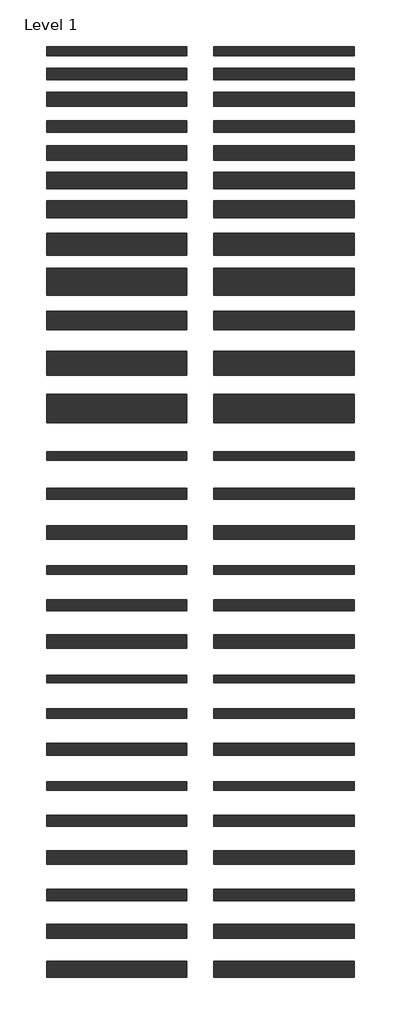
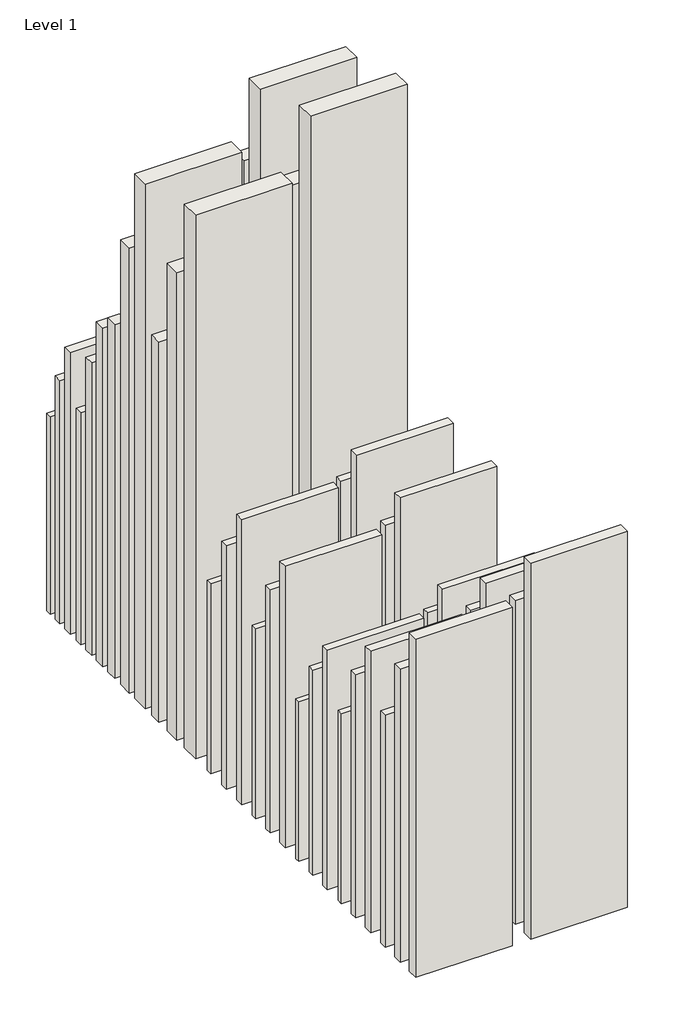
# One storey: 54 walls.
"""IFC4 building model written with IfcOpenShell, lengths in millimetres."""

from ifc_helpers import new_model, si_unit, origin, origin_with_axes, place, context, project, spatial, polyline, outline, extrude, element, save

model = new_model("IFC4")

# Units and contexts
model_context = context("Model", 3, world=origin())
ifc_project = project(units=[si_unit("LENGTHUNIT", "METRE", prefix="MILLI")], contexts=[model_context])

# Site, building, storey
site = spatial("IfcSite", under=ifc_project)
building = spatial("IfcBuilding", under=site)
storey = spatial("IfcBuildingStorey", under=building, Name="Level 1", Elevation=0.0)

# Walls
placement = place(None, origin())
element("IfcWall", 1, ObjectType="Tabique Simple – Placo Force Premium 78/600 con LM Isover - 43,2 dBA", at=placement, inside=storey, context=model_context, shape_type="SweptSolid", body=[
    extrude(outline(polyline([(-7457.0854959, -1929.0445576), (-8657.0854959, -1929.0445576), (-8657.0854959, -1851.0445576), (-7457.0854959, -1851.0445576), (-7457.0854959, -1929.0445576)])), origin_with_axes(), (0.0, 0.0, 1.0), 2600.0),
])
element("IfcWall", 2, ObjectType="Tabique Simple – Placo Force Premium 100/600 con LM Isover - 45,7 dBA", at=placement, inside=storey, context=model_context, shape_type="SweptSolid", body=[
    extrude(outline(polyline([(-7457.0854959, -2135.5442564), (-8657.0854959, -2135.5442564), (-8657.0854959, -2035.5442564), (-7457.0854959, -2035.5442564), (-7457.0854959, -2135.5442564)])), origin_with_axes(), (0.0, 0.0, 1.0), 3200.0),
])
element("IfcWall", 3, ObjectType="Tabique Simple – Placo Force Premium 120/600 con LM Isover - 47 dBA", at=placement, inside=storey, context=model_context, shape_type="SweptSolid", body=[
    extrude(outline(polyline([(-7457.0854959, -2360.5442564), (-8657.0854959, -2360.5442564), (-8657.0854959, -2240.5442564), (-7457.0854959, -2240.5442564), (-7457.0854959, -2360.5442564)])), origin_with_axes(), (0.0, 0.0, 1.0), 3700.0),
])
element("IfcWall", 4, ObjectType="Tabique Simple – Placo Force Premium 98/600 con LM Isover - 53,1 dBA", at=placement, inside=storey, context=model_context, shape_type="SweptSolid", body=[
    extrude(outline(polyline([(-7457.0854959, -2584.5442564), (-8657.0854959, -2584.5442564), (-8657.0854959, -2486.5442564), (-7457.0854959, -2486.5442564), (-7457.0854959, -2584.5442564)])), origin_with_axes(), (0.0, 0.0, 1.0), 3050.0),
])
element("IfcWall", 5, ObjectType="Tabique Simple – Placo Force Premium 120/600 con LM Isover - 55 dBA", at=placement, inside=storey, context=model_context, shape_type="SweptSolid", body=[
    extrude(outline(polyline([(-7457.0854959, -2820.5442564), (-8657.0854959, -2820.5442564), (-8657.0854959, -2700.5442564), (-7457.0854959, -2700.5442564), (-7457.0854959, -2820.5442564)])), origin_with_axes(), (0.0, 0.0, 1.0), 3850.0),
])
element("IfcWall", 6, ObjectType="Tabique Simple – Placo Force Premium 120/400 con LM Isover - 55 dBA", at=placement, inside=storey, context=model_context, shape_type="SweptSolid", body=[
    extrude(outline(polyline([(-6027.299514, -2820.5442564), (-7227.299514, -2820.5442564), (-7227.299514, -2700.5442564), (-6027.299514, -2700.5442564), (-6027.299514, -2820.5442564)])), origin_with_axes(), (0.0, 0.0, 1.0), 4250.0),
])
element("IfcWall", 7, ObjectType="Tabique Simple – Placo Force Premium 140/600 con LM Isover - ≥ 55 dBA", at=placement, inside=storey, context=model_context, shape_type="SweptSolid", body=[
    extrude(outline(polyline([(-7457.0854959, -3066.5442564), (-8657.0854959, -3066.5442564), (-8657.0854959, -2926.5442564), (-7457.0854959, -2926.5442564), (-7457.0854959, -3066.5442564)])), origin_with_axes(), (0.0, 0.0, 1.0), 4450.0),
])
element("IfcWall", 8, ObjectType="Tabique Simple – Placo Force Premium 140/400 con LM Isover - ≥ 55 dBA", at=placement, inside=storey, context=model_context, shape_type="SweptSolid", body=[
    extrude(outline(polyline([(-6027.299514, -3066.5442564), (-7227.299514, -3066.5442564), (-7227.299514, -2926.5442564), (-6027.299514, -2926.5442564), (-6027.299514, -3066.5442564)])), origin_with_axes(), (0.0, 0.0, 1.0), 4950.0),
])
element("IfcWall", 9, ObjectType="Tabique Doble – Placo Force Premium 146/600 con LM Isover - ≥ 55,9 dBA", at=placement, inside=storey, context=model_context, shape_type="SweptSolid", body=[
    extrude(outline(polyline([(-7457.0854959, -3315.5442564), (-8657.0854959, -3315.5442564), (-8657.0854959, -3169.5442564), (-7457.0854959, -3169.5442564), (-7457.0854959, -3315.5442564)])), origin_with_axes(), (0.0, 0.0, 1.0), 4650.0),
])
element("IfcWall", 10, ObjectType="Tabique Doble – Placo Force Premium 146/400 con LM Isover - ≥ 55,9 dBA", at=placement, inside=storey, context=model_context, shape_type="SweptSolid", body=[
    extrude(outline(polyline([(-6027.299514, -3315.5442564), (-7227.299514, -3315.5442564), (-7227.299514, -3169.5442564), (-6027.299514, -3169.5442564), (-6027.299514, -3315.5442564)])), origin_with_axes(), (0.0, 0.0, 1.0), 5150.0),
])
element("IfcWall", 11, ObjectType="Tabique Doble – Placo Force Premium 190/600 con LM Isover - ≥ 55,9 dBA", at=placement, inside=storey, context=model_context, shape_type="SweptSolid", body=[
    extrude(outline(polyline([(-7457.0854959, -3636.5442564), (-8657.0854959, -3636.5442564), (-8657.0854959, -3446.5442564), (-7457.0854959, -3446.5442564), (-7457.0854959, -3636.5442564)])), origin_with_axes(), (0.0, 0.0, 1.0), 5850.0),
])
element("IfcWall", 12, ObjectType="Tabique Doble – Placo Force Premium 190/400 con LM Isover - ≥ 55,9 dBA", at=placement, inside=storey, context=model_context, shape_type="SweptSolid", body=[
    extrude(outline(polyline([(-6027.299514, -3636.5442564), (-7227.299514, -3636.5442564), (-7227.299514, -3446.5442564), (-6027.299514, -3446.5442564), (-6027.299514, -3636.5442564)])), origin_with_axes(), (0.0, 0.0, 1.0), 6500.0),
])
element("IfcWall", 13, ObjectType="Tabique Doble – Placo Force Premium 230/600 con LM Isover - ≥ 55,9 dBA", at=placement, inside=storey, context=model_context, shape_type="SweptSolid", body=[
    extrude(outline(polyline([(-7457.0854959, -3977.5442564), (-8657.0854959, -3977.5442564), (-8657.0854959, -3747.5442564), (-7457.0854959, -3747.5442564), (-7457.0854959, -3977.5442564)])), origin_with_axes(), (0.0, 0.0, 1.0), 6900.0),
])
element("IfcWall", 14, ObjectType="Tabique Doble – Placo Force Premium 230/400 con LM Isover - ≥ 55,9 dBA", at=placement, inside=storey, context=model_context, shape_type="SweptSolid", body=[
    extrude(outline(polyline([(-6027.299514, -3977.5442564), (-7227.299514, -3977.5442564), (-7227.299514, -3747.5442564), (-6027.299514, -3747.5442564), (-6027.299514, -3977.5442564)])), origin_with_axes(), (0.0, 0.0, 1.0), 7650.0),
])
element("IfcWall", 15, ObjectType="Tabique Simple – Placo Force Premium 98/400 con LM Isover - 53,1 dBA", at=placement, inside=storey, context=model_context, shape_type="SweptSolid", body=[
    extrude(outline(polyline([(-6027.299514, -2584.5442564), (-7227.299514, -2584.5442564), (-7227.299514, -2486.5442564), (-6027.299514, -2486.5442564), (-6027.299514, -2584.5442564)])), origin_with_axes(), (0.0, 0.0, 1.0), 3350.0),
])
element("IfcWall", 16, ObjectType="Tabique Simple – Placo Force Premium 120/400 con LM Isover - 47 dBA", at=placement, inside=storey, context=model_context, shape_type="SweptSolid", body=[
    extrude(outline(polyline([(-6027.299514, -2360.5442564), (-7227.299514, -2360.5442564), (-7227.299514, -2240.5442564), (-6027.299514, -2240.5442564), (-6027.299514, -2360.5442564)])), origin_with_axes(), (0.0, 0.0, 1.0), 4100.0),
])
element("IfcWall", 17, ObjectType="Tabique Simple – Placo Force Premium 100/400 con LM Isover - 45,7 dBA", at=placement, inside=storey, context=model_context, shape_type="SweptSolid", body=[
    extrude(outline(polyline([(-6027.299514, -2135.5442564), (-7227.299514, -2135.5442564), (-7227.299514, -2035.5442564), (-6027.299514, -2035.5442564), (-6027.299514, -2135.5442564)])), origin_with_axes(), (0.0, 0.0, 1.0), 3550.0),
])
element("IfcWall", 18, ObjectType="Tabique Simple – Placo Force Premium 78/400 con LM Isover - 43,2 dBA", at=placement, inside=storey, context=model_context, shape_type="SweptSolid", body=[
    extrude(outline(polyline([(-6027.299514, -1929.0445576), (-7227.299514, -1929.0445576), (-7227.299514, -1851.0445576), (-6027.299514, -1851.0445576), (-6027.299514, -1929.0445576)])), origin_with_axes(), (0.0, 0.0, 1.0), 2800.0),
])
element("IfcWall", 19, ObjectType="Tabique Doble – Placo Force Premium 158/600 con LM Isover - ≥ 59,1 dBA", at=placement, inside=storey, context=model_context, shape_type="SweptSolid", body=[
    extrude(outline(polyline([(-7457.0854959, -4271.7942564), (-8657.0854959, -4271.7942564), (-8657.0854959, -4113.2942564), (-7457.0854959, -4113.2942564), (-7457.0854959, -4271.7942564)])), origin_with_axes(), (0.0, 0.0, 1.0), 5000.0),
])
element("IfcWall", 20, ObjectType="Tabique Doble – Placo Force Premium 158/400 con LM Isover - ≥ 59,1 dBA", at=placement, inside=storey, context=model_context, shape_type="SweptSolid", body=[
    extrude(outline(polyline([(-6027.299514, -4271.7942564), (-7227.299514, -4271.7942564), (-7227.299514, -4113.2942564), (-6027.299514, -4113.2942564), (-6027.299514, -4271.7942564)])), origin_with_axes(), (0.0, 0.0, 1.0), 5550.0),
])
element("IfcWall", 21, ObjectType="Tabique Doble – Placo Force Premium 203/600 con LM Isover - ≥ 59,1 dBA", at=placement, inside=storey, context=model_context, shape_type="SweptSolid", body=[
    extrude(outline(polyline([(-7457.0854959, -4658.0442564), (-8657.0854959, -4658.0442564), (-8657.0854959, -4455.5442564), (-7457.0854959, -4455.5442564), (-7457.0854959, -4658.0442564)])), origin_with_axes(), (0.0, 0.0, 1.0), 6150.0),
])
element("IfcWall", 22, ObjectType="Tabique Doble – Placo Force Premium 203/400 con LM Isover - ≥ 59,1 dBA", at=placement, inside=storey, context=model_context, shape_type="SweptSolid", body=[
    extrude(outline(polyline([(-6027.299514, -4658.0442564), (-7227.299514, -4658.0442564), (-7227.299514, -4455.5442564), (-6027.299514, -4455.5442564), (-6027.299514, -4658.0442564)])), origin_with_axes(), (0.0, 0.0, 1.0), 6800.0),
])
element("IfcWall", 23, ObjectType="Tabique Doble – Placo Force Premium 243/600 con LM Isover - ≥ 59,1 dBA", at=placement, inside=storey, context=model_context, shape_type="SweptSolid", body=[
    extrude(outline(polyline([(-7457.0854959, -5064.2942564), (-8657.0854959, -5064.2942564), (-8657.0854959, -4821.7942564), (-7457.0854959, -4821.7942564), (-7457.0854959, -5064.2942564)])), origin_with_axes(), (0.0, 0.0, 1.0), 7150.0),
])
element("IfcWall", 24, ObjectType="Tabique Doble – Placo Force Premium 243/400 con LM Isover - ≥ 59,1 dBA", at=placement, inside=storey, context=model_context, shape_type="SweptSolid", body=[
    extrude(outline(polyline([(-6027.299514, -5064.2942564), (-7227.299514, -5064.2942564), (-7227.299514, -4821.7942564), (-6027.299514, -4821.7942564), (-6027.299514, -5064.2942564)])), origin_with_axes(), (0.0, 0.0, 1.0), 7950.0),
])
element("IfcWall", 25, ObjectType="Trasdosado Placo Force Premium 73/600 con LM Isover -  ≥ 64,8 dBA", at=placement, inside=storey, context=model_context, shape_type="SweptSolid", body=[
    extrude(outline(polyline([(-7457.0854959, -5385.7942564), (-8657.0854959, -5385.7942564), (-8657.0854959, -5312.7942564), (-7457.0854959, -5312.7942564), (-7457.0854959, -5385.7942564)])), origin_with_axes(), (0.0, 0.0, 1.0), 2500.0),
])
element("IfcWall", 26, ObjectType="Trasdosado Placo Force Premium 73/400 con LM Isover -  ≥ 64,8 dBA", at=placement, inside=storey, context=model_context, shape_type="SweptSolid", body=[
    extrude(outline(polyline([(-6027.299514, -5385.7942564), (-7227.299514, -5385.7942564), (-7227.299514, -5312.7942564), (-6027.299514, -5312.7942564), (-6027.299514, -5385.7942564)])), origin_with_axes(), (0.0, 0.0, 1.0), 2700.0),
])
element("IfcWall", 27, ObjectType="Trasdosado Placo Force Premium 95/600 con LM Isover -  ≥ 64,8 dBA", at=placement, inside=storey, context=model_context, shape_type="SweptSolid", body=[
    extrude(outline(polyline([(-7457.0854959, -5718.2942564), (-8657.0854959, -5718.2942564), (-8657.0854959, -5623.2942564), (-7457.0854959, -5623.2942564), (-7457.0854959, -5718.2942564)])), origin_with_axes(), (0.0, 0.0, 1.0), 3200.0),
])
element("IfcWall", 28, ObjectType="Trasdosado Placo Force Premium 95/400 con LM Isover -  ≥ 64,8 dBA", at=placement, inside=storey, context=model_context, shape_type="SweptSolid", body=[
    extrude(outline(polyline([(-6027.299514, -5718.2942564), (-7227.299514, -5718.2942564), (-7227.299514, -5623.2942564), (-6027.299514, -5623.2942564), (-6027.299514, -5718.2942564)])), origin_with_axes(), (0.0, 0.0, 1.0), 3550.0),
])
element("IfcWall", 29, ObjectType="Trasdosado Placo Force Premium 115/600 con LM Isover -  ≥ 64,8 dBA", at=placement, inside=storey, context=model_context, shape_type="SweptSolid", body=[
    extrude(outline(polyline([(-7457.0854959, -6060.7942564), (-8657.0854959, -6060.7942564), (-8657.0854959, -5945.7942564), (-7457.0854959, -5945.7942564), (-7457.0854959, -6060.7942564)])), origin_with_axes(), (0.0, 0.0, 1.0), 3750.0),
])
element("IfcWall", 30, ObjectType="Trasdosado Placo Force Premium 115/400 con LM Isover -  ≥ 64,8 dBA", at=placement, inside=storey, context=model_context, shape_type="SweptSolid", body=[
    extrude(outline(polyline([(-6027.299514, -6060.7942564), (-7227.299514, -6060.7942564), (-7227.299514, -5945.7942564), (-6027.299514, -5945.7942564), (-6027.299514, -6060.7942564)])), origin_with_axes(), (0.0, 0.0, 1.0), 4100.0),
])
element("IfcWall", 31, ObjectType="Tabique Simple – Placo Force Hydro 73/600 con LM Isover - 42 dBA", at=placement, inside=storey, context=model_context, shape_type="SweptSolid", body=[
    extrude(outline(polyline([(-7457.0854959, -6360.6205834), (-8657.0854959, -6360.6205834), (-8657.0854959, -6287.6205834), (-7457.0854959, -6287.6205834), (-7457.0854959, -6360.6205834)])), origin_with_axes(), (0.0, 0.0, 1.0), 2500.0),
])
element("IfcWall", 32, ObjectType="Tabique Simple – Placo Force Hydro 73/400 con LM Isover - 42 dBA", at=placement, inside=storey, context=model_context, shape_type="SweptSolid", body=[
    extrude(outline(polyline([(-6027.299514, -6360.6205834), (-7227.299514, -6360.6205834), (-7227.299514, -6287.6205834), (-6027.299514, -6287.6205834), (-6027.299514, -6360.6205834)])), origin_with_axes(), (0.0, 0.0, 1.0), 2700.0),
])
element("IfcWall", 33, ObjectType="Tabique Simple – Placo Force Hydro 95/600 con LM Isover - ≈ 43 dBA", at=placement, inside=storey, context=model_context, shape_type="SweptSolid", body=[
    extrude(outline(polyline([(-7457.0854959, -6671.4469104), (-8657.0854959, -6671.4469104), (-8657.0854959, -6576.4469104), (-7457.0854959, -6576.4469104), (-7457.0854959, -6671.4469104)])), origin_with_axes(), (0.0, 0.0, 1.0), 3200.0),
])
element("IfcWall", 34, ObjectType="Tabique Simple – Placo Force Hydro 95/400 con LM Isover -  ≈ 43 dBA", at=placement, inside=storey, context=model_context, shape_type="SweptSolid", body=[
    extrude(outline(polyline([(-6027.299514, -6671.4469104), (-7227.299514, -6671.4469104), (-7227.299514, -6576.4469104), (-6027.299514, -6576.4469104), (-6027.299514, -6671.4469104)])), origin_with_axes(), (0.0, 0.0, 1.0), 3550.0),
])
element("IfcWall", 35, ObjectType="Tabique Simple – Placo Force Hydro 115/600 con LM Isover -  ≈ 44 dBA", at=placement, inside=storey, context=model_context, shape_type="SweptSolid", body=[
    extrude(outline(polyline([(-7457.0854959, -6992.2732374), (-8657.0854959, -6992.2732374), (-8657.0854959, -6877.2732374), (-7457.0854959, -6877.2732374), (-7457.0854959, -6992.2732374)])), origin_with_axes(), (0.0, 0.0, 1.0), 3700.0),
])
element("IfcWall", 36, ObjectType="Tabique Simple – Placo Force Hydro 115/400 con LM Isover -  ≈ 44 dBA", at=placement, inside=storey, context=model_context, shape_type="SweptSolid", body=[
    extrude(outline(polyline([(-6027.299514, -6992.2732374), (-7227.299514, -6992.2732374), (-7227.299514, -6877.2732374), (-6027.299514, -6877.2732374), (-6027.299514, -6992.2732374)])), origin_with_axes(), (0.0, 0.0, 1.0), 4100.0),
])
element("IfcWall", 37, ObjectType="Trasdosado Simple – Placo Force Hydro 73/600 con LM Isover -  ≈ 64,8 dBA", at=placement, inside=storey, context=model_context, shape_type="SweptSolid", body=[
    extrude(outline(polyline([(-7457.0854959, -7285.8495644), (-8657.0854959, -7285.8495644), (-8657.0854959, -7225.3495644), (-7457.0854959, -7225.3495644), (-7457.0854959, -7285.8495644)])), origin_with_axes(), (0.0, 0.0, 1.0), 2100.0),
])
element("IfcWall", 38, ObjectType="Trasdosado Simple – Placo Force Hydro 73/400 con LM Isover - ≈ 64,8 dBA", at=placement, inside=storey, context=model_context, shape_type="SweptSolid", body=[
    extrude(outline(polyline([(-6027.299514, -7285.8495644), (-7227.299514, -7285.8495644), (-7227.299514, -7225.3495644), (-6027.299514, -7225.3495644), (-6027.299514, -7285.8495644)])), origin_with_axes(), (0.0, 0.0, 1.0), 2300.0),
])
element("IfcWall", 39, ObjectType="Trasdosado Simple – Placo Force Hydro 95/600 con LM Isover - ≈ 64,8dBA", at=placement, inside=storey, context=model_context, shape_type="SweptSolid", body=[
    extrude(outline(polyline([(-7457.0854959, -7590.4258914), (-8657.0854959, -7590.4258914), (-8657.0854959, -7507.9258914), (-7457.0854959, -7507.9258914), (-7457.0854959, -7590.4258914)])), origin_with_axes(), (0.0, 0.0, 1.0), 2700.0),
])
element("IfcWall", 40, ObjectType="Trasdosado Simple – Placo Force Hydro 95/400 con LM Isover - ≈ 64,8 dBA", at=placement, inside=storey, context=model_context, shape_type="SweptSolid", body=[
    extrude(outline(polyline([(-6027.299514, -7590.4258914), (-7227.299514, -7590.4258914), (-7227.299514, -7507.9258914), (-6027.299514, -7507.9258914), (-6027.299514, -7590.4258914)])), origin_with_axes(), (0.0, 0.0, 1.0), 2950.0),
])
element("IfcWall", 41, ObjectType="Trasdosado Simple – Placo Force Hydro 115/600 con LM Isover - ≈ 64,8dBA", at=placement, inside=storey, context=model_context, shape_type="SweptSolid", body=[
    extrude(outline(polyline([(-7457.0854959, -7905.0022184), (-8657.0854959, -7905.0022184), (-8657.0854959, -7802.5022184), (-7457.0854959, -7802.5022184), (-7457.0854959, -7905.0022184)])), origin_with_axes(), (0.0, 0.0, 1.0), 3150.0),
])
element("IfcWall", 42, ObjectType="Trasdosado Simple – Placo Force Hydro 115/400 con LM Isover - ≈ 64,8 dBA", at=placement, inside=storey, context=model_context, shape_type="SweptSolid", body=[
    extrude(outline(polyline([(-6027.299514, -7905.0022184), (-7227.299514, -7905.0022184), (-7227.299514, -7802.5022184), (-6027.299514, -7802.5022184), (-6027.299514, -7905.0022184)])), origin_with_axes(), (0.0, 0.0, 1.0), 3450.0),
])
element("IfcWall", 43, ObjectType="Tabique Simple – Placo Force 73/600 con LM Isover - ≈ 40 dBA", at=placement, inside=storey, context=model_context, shape_type="SweptSolid", body=[
    extrude(outline(polyline([(-7457.0854959, -8204.8285454), (-8657.0854959, -8204.8285454), (-8657.0854959, -8131.8285454), (-7457.0854959, -8131.8285454), (-7457.0854959, -8204.8285454)])), origin_with_axes(), (0.0, 0.0, 1.0), 2500.0),
])
element("IfcWall", 44, ObjectType="Tabique Simple – Placo Force 73/400 con LM Isover - ≈ 40 dBA", at=placement, inside=storey, context=model_context, shape_type="SweptSolid", body=[
    extrude(outline(polyline([(-6027.299514, -8204.8285454), (-7227.299514, -8204.8285454), (-7227.299514, -8131.8285454), (-6027.299514, -8131.8285454), (-6027.299514, -8204.8285454)])), origin_with_axes(), (0.0, 0.0, 1.0), 2800.0),
])
element("IfcWall", 45, ObjectType="Tabique Simple – Placo Force 95/600 con LM Isover - ≈ 43 dBA", at=placement, inside=storey, context=model_context, shape_type="SweptSolid", body=[
    extrude(outline(polyline([(-7457.0854959, -8515.6548724), (-8657.0854959, -8515.6548724), (-8657.0854959, -8420.6548724), (-7457.0854959, -8420.6548724), (-7457.0854959, -8515.6548724)])), origin_with_axes(), (0.0, 0.0, 1.0), 3200.0),
])
element("IfcWall", 46, ObjectType="Tabique Simple – Placo Force 95/400 con LM Isover - ≈ 43 dBA", at=placement, inside=storey, context=model_context, shape_type="SweptSolid", body=[
    extrude(outline(polyline([(-6027.299514, -8515.6548724), (-7227.299514, -8515.6548724), (-7227.299514, -8420.6548724), (-6027.299514, -8420.6548724), (-6027.299514, -8515.6548724)])), origin_with_axes(), (0.0, 0.0, 1.0), 3550.0),
])
element("IfcWall", 47, ObjectType="Tabique Simple – Placo Force 115/600 con LM Isover - ≈ 44 dBA", at=placement, inside=storey, context=model_context, shape_type="SweptSolid", body=[
    extrude(outline(polyline([(-7457.0854959, -8836.4811994), (-8657.0854959, -8836.4811994), (-8657.0854959, -8721.4811994), (-7457.0854959, -8721.4811994), (-7457.0854959, -8836.4811994)])), origin_with_axes(), (0.0, 0.0, 1.0), 3700.0),
])
element("IfcWall", 48, ObjectType="Tabique Simple – Placo Force 115/400 con LM Isover - ≈ 44 dBA", at=placement, inside=storey, context=model_context, shape_type="SweptSolid", body=[
    extrude(outline(polyline([(-6027.299514, -8836.4811994), (-7227.299514, -8836.4811994), (-7227.299514, -8721.4811994), (-6027.299514, -8721.4811994), (-6027.299514, -8836.4811994)])), origin_with_axes(), (0.0, 0.0, 1.0), 4100.0),
])
element("IfcWall", 49, ObjectType="Tabique Simple – Placo Force98/600 con LM Isover - 50,1dBA", at=placement, inside=storey, context=model_context, shape_type="SweptSolid", body=[
    extrude(outline(polyline([(-7457.0854959, -9148.8075264), (-8657.0854959, -9148.8075264), (-8657.0854959, -9050.8075264), (-7457.0854959, -9050.8075264), (-7457.0854959, -9148.8075264)])), origin_with_axes(), (0.0, 0.0, 1.0), 3050.0),
])
element("IfcWall", 50, ObjectType="Tabique Simple – Placo Force98/400 con LM Isover - 50,1 dBA", at=placement, inside=storey, context=model_context, shape_type="SweptSolid", body=[
    extrude(outline(polyline([(-6027.299514, -9148.8075264), (-7227.299514, -9148.8075264), (-7227.299514, -9050.8075264), (-6027.299514, -9050.8075264), (-6027.299514, -9148.8075264)])), origin_with_axes(), (0.0, 0.0, 1.0), 3350.0),
])
element("IfcWall", 51, ObjectType="Tabique Simple – Placo Force120/600 con LM Isover - ≈ 53 dBA", at=placement, inside=storey, context=model_context, shape_type="SweptSolid", body=[
    extrude(outline(polyline([(-7457.0854959, -9472.1338534), (-8657.0854959, -9472.1338534), (-8657.0854959, -9352.1338534), (-7457.0854959, -9352.1338534), (-7457.0854959, -9472.1338534)])), origin_with_axes(), (0.0, 0.0, 1.0), 3850.0),
])
element("IfcWall", 52, ObjectType="Tabique Simple – Placo Force120/400 con LM Isover - ≈ 53 dBA", at=placement, inside=storey, context=model_context, shape_type="SweptSolid", body=[
    extrude(outline(polyline([(-6027.299514, -9472.1338534), (-7227.299514, -9472.1338534), (-7227.299514, -9352.1338534), (-6027.299514, -9352.1338534), (-6027.299514, -9472.1338534)])), origin_with_axes(), (0.0, 0.0, 1.0), 4250.0),
])
element("IfcWall", 53, ObjectType="Tabique Simple – Placo Force140/600 con LM Isover - ≈ 54 dBA", at=placement, inside=storey, context=model_context, shape_type="SweptSolid", body=[
    extrude(outline(polyline([(-7457.0854959, -9805.4601804), (-8657.0854959, -9805.4601804), (-8657.0854959, -9665.4601804), (-7457.0854959, -9665.4601804), (-7457.0854959, -9805.4601804)])), origin_with_axes(), (0.0, 0.0, 1.0), 4450.0),
])
element("IfcWall", 54, ObjectType="Tabique Simple – Placo Force140/400 con LM Isover - ≈ 54 dBA", at=placement, inside=storey, context=model_context, shape_type="SweptSolid", body=[
    extrude(outline(polyline([(-6027.299514, -9805.4601804), (-7227.299514, -9805.4601804), (-7227.299514, -9665.4601804), (-6027.299514, -9665.4601804), (-6027.299514, -9805.4601804)])), origin_with_axes(), (0.0, 0.0, 1.0), 4950.0),
])

save(model, "model.ifc")
